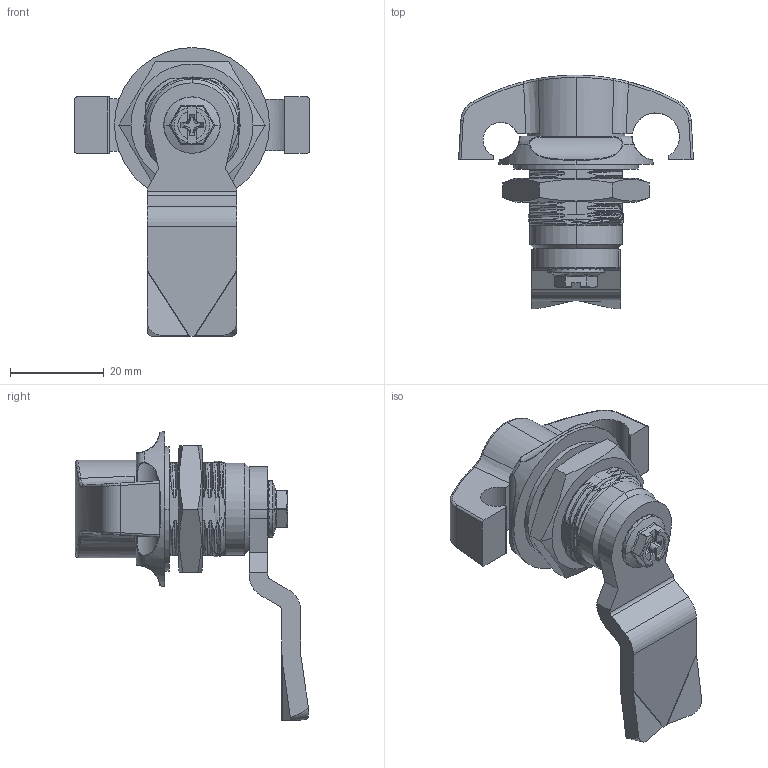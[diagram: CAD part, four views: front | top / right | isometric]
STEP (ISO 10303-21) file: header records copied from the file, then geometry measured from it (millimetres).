
FILE_DESCRIPTION (( 'STEP AP214' ), '1' );
FILE_NAME ('CUYUE.MS714-3.STEP', '2026-06-18T07:09:42', ( '' ), ( '' ), 'SwSTEP 2.0', 'SolidWorks 2020', '' );
FILE_SCHEMA (( 'AUTOMOTIVE_DESIGN' ));
Length unit declared in the file: millimetre
Products named in the file (7): SW6X8; S1B4507; MS714-3-JIZUO; MS714-3-SOUBIN; MS705-LUOMU; MS705-CEIDIAN; CUYUE.MS714-3
Assembly tree (6 placements, depth 2):
  CUYUE.MS714-3
    SW6X8
    S1B4507
    MS705-LUOMU
    MS705-CEIDIAN
    MS714-3-SOUBIN
    MS714-3-JIZUO
Bounding box: 50 x 49.67 x 61.5 mm (x, y, z)
Volume: 15135.2 mm3; surface area: 15600.5 mm2
Topology: 5 solids, 8 shells, 710 faces, 1871 edges, 1168 vertices
Faces by surface type: bspline 277, cylinder 188, plane 127, sphere 69, torus 29, cone 20
Entity records: 58473 total; most frequent: CARTESIAN_POINT 44012, ORIENTED_EDGE 3674, DIRECTION 1974, EDGE_CURVE 1841, VERTEX_POINT 1153, B_SPLINE_CURVE_WITH_KNOTS 866, AXIS2_PLACEMENT_3D 774, EDGE_LOOP 722
